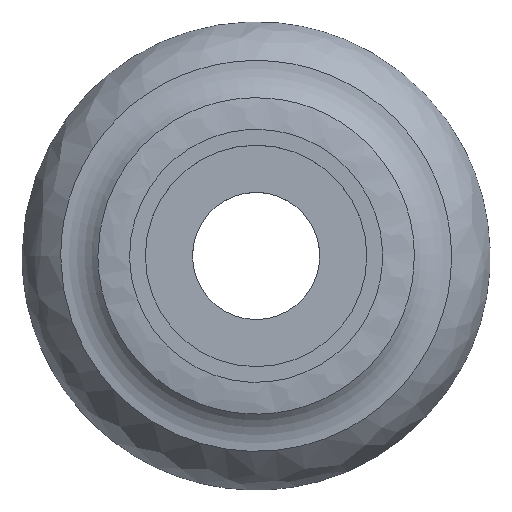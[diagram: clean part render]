
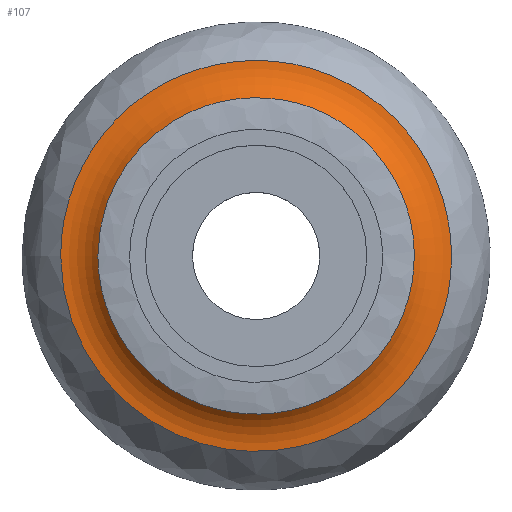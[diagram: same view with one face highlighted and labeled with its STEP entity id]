
A CAD part, top view. The second image highlights one B-rep face of the part: STEP entity #107.
In plain terms, the highlighted toroidal (fillet/blend) face has major radius 12.5 mm and minor radius 3.25 mm.
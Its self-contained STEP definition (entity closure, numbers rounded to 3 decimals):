
#29=FACE_OUTER_BOUND('',#37,.T.);
#37=EDGE_LOOP('',(#80,#81,#82,#83));
#48=CIRCLE('',#130,3.25);
#53=B_SPLINE_CURVE_WITH_KNOTS('',3,(#169,#170,#171,#172,#173,#174,#175,
#176,#177,#178,#179,#180,#181,#182,#183,#184,#185,#186,#187,#188,#189,#190,
#191,#192,#193,#194,#195,#196,#197,#198,#199,#200,#201,#202,#203,#204,#205,
#206,#207,#208,#209,#210,#211),.UNSPECIFIED.,.T.,.F.,(4,3,3,3,3,3,3,3,3,
3,3,3,3,3,4),(-0.507,-0.054,0.4,
0.702,1.306,1.609,2.213,2.515,
3.12,3.422,4.026,4.48,4.933,
5.386,5.84),.UNSPECIFIED.);
#54=B_SPLINE_CURVE_WITH_KNOTS('',3,(#214,#215,#216,#217,#218,#219,#220,
#221,#222,#223,#224,#225,#226,#227,#228,#229,#230,#231,#232,#233,#234,#235,
#236,#237,#238,#239,#240,#241,#242,#243,#244,#245,#246,#247,#248,#249,#250,
#251,#252,#253,#254,#255,#256),.UNSPECIFIED.,.T.,.F.,(4,3,3,3,3,3,3,3,3,
3,3,3,3,3,4),(-7.425,-6.865,-6.305,-5.745,
-5.185,-4.812,-4.065,-3.692,
-2.945,-2.572,-1.825,-1.452,
-0.705,-0.145,0.415),.UNSPECIFIED.);
#59=VERTEX_POINT('',#168);
#60=VERTEX_POINT('',#212);
#67=EDGE_CURVE('',#59,#59,#53,.F.);
#68=EDGE_CURVE('',#59,#60,#48,.T.);
#69=EDGE_CURVE('',#60,#60,#54,.F.);
#80=ORIENTED_EDGE('',*,*,#67,.F.);
#81=ORIENTED_EDGE('',*,*,#68,.T.);
#82=ORIENTED_EDGE('',*,*,#69,.F.);
#83=ORIENTED_EDGE('',*,*,#68,.F.);
#106=TOROIDAL_SURFACE('',#129,12.5,3.25);
#107=ADVANCED_FACE('',(#29),#106,.F.);
#129=AXIS2_PLACEMENT_3D('',#167,#142,#143);
#130=AXIS2_PLACEMENT_3D('',#213,#144,#145);
#142=DIRECTION('center_axis',(0.,0.,1.));
#143=DIRECTION('ref_axis',(1.,0.,0.));
#144=DIRECTION('center_axis',(0.,1.,0.));
#145=DIRECTION('ref_axis',(-1.,0.,0.));
#167=CARTESIAN_POINT('Origin',(130.,0.,7.9));
#168=CARTESIAN_POINT('',(119.929,0.,5.741));
#169=CARTESIAN_POINT('Ctrl Pts',(119.929,0.,
5.741));
#170=CARTESIAN_POINT('Ctrl Pts',(119.929,1.507,5.741));
#171=CARTESIAN_POINT('Ctrl Pts',(120.273,3.014,5.741));
#172=CARTESIAN_POINT('Ctrl Pts',(120.926,4.37,5.741));
#173=CARTESIAN_POINT('Ctrl Pts',(121.58,5.727,5.741));
#174=CARTESIAN_POINT('Ctrl Pts',(122.543,6.932,5.741));
#175=CARTESIAN_POINT('Ctrl Pts',(123.721,7.873,5.741));
#176=CARTESIAN_POINT('Ctrl Pts',(124.506,8.5,5.741));
#177=CARTESIAN_POINT('Ctrl Pts',(125.386,9.01,5.741));
#178=CARTESIAN_POINT('Ctrl Pts',(126.321,9.375,5.741));
#179=CARTESIAN_POINT('Ctrl Pts',(128.191,10.107,5.741));
#180=CARTESIAN_POINT('Ctrl Pts',(130.281,10.264,5.741));
#181=CARTESIAN_POINT('Ctrl Pts',(132.24,9.821,5.741));
#182=CARTESIAN_POINT('Ctrl Pts',(133.22,9.599,5.741));
#183=CARTESIAN_POINT('Ctrl Pts',(134.168,9.228,5.741));
#184=CARTESIAN_POINT('Ctrl Pts',(135.037,8.724,5.741));
#185=CARTESIAN_POINT('Ctrl Pts',(136.775,7.716,5.741));
#186=CARTESIAN_POINT('Ctrl Pts',(138.2,6.18,5.741));
#187=CARTESIAN_POINT('Ctrl Pts',(139.074,4.371,5.741));
#188=CARTESIAN_POINT('Ctrl Pts',(139.511,3.467,5.741));
#189=CARTESIAN_POINT('Ctrl Pts',(139.811,2.494,5.741));
#190=CARTESIAN_POINT('Ctrl Pts',(139.959,1.501,5.741));
#191=CARTESIAN_POINT('Ctrl Pts',(140.255,-0.486,5.741));
#192=CARTESIAN_POINT('Ctrl Pts',(139.945,-2.558,5.741));
#193=CARTESIAN_POINT('Ctrl Pts',(139.077,-4.369,5.741));
#194=CARTESIAN_POINT('Ctrl Pts',(138.643,-5.275,5.741));
#195=CARTESIAN_POINT('Ctrl Pts',(138.069,-6.116,5.741));
#196=CARTESIAN_POINT('Ctrl Pts',(137.385,-6.852,5.741));
#197=CARTESIAN_POINT('Ctrl Pts',(136.015,-8.323,5.741));
#198=CARTESIAN_POINT('Ctrl Pts',(134.199,-9.372,5.741));
#199=CARTESIAN_POINT('Ctrl Pts',(132.242,-9.82,5.741));
#200=CARTESIAN_POINT('Ctrl Pts',(130.775,-10.156,5.741));
#201=CARTESIAN_POINT('Ctrl Pts',(129.228,-10.154,5.741));
#202=CARTESIAN_POINT('Ctrl Pts',(127.759,-9.818,5.741));
#203=CARTESIAN_POINT('Ctrl Pts',(126.29,-9.483,5.741));
#204=CARTESIAN_POINT('Ctrl Pts',(124.899,-8.813,5.741));
#205=CARTESIAN_POINT('Ctrl Pts',(123.721,-7.874,5.741));
#206=CARTESIAN_POINT('Ctrl Pts',(122.544,-6.936,5.741));
#207=CARTESIAN_POINT('Ctrl Pts',(121.58,-5.727,5.741));
#208=CARTESIAN_POINT('Ctrl Pts',(120.926,-4.37,5.741));
#209=CARTESIAN_POINT('Ctrl Pts',(120.272,-3.012,5.741));
#210=CARTESIAN_POINT('Ctrl Pts',(119.929,-1.507,5.741));
#211=CARTESIAN_POINT('Ctrl Pts',(119.929,0.,
5.741));
#212=CARTESIAN_POINT('',(117.559,0.,4.651));
#213=CARTESIAN_POINT('Origin',(117.5,0.,7.9));
#214=CARTESIAN_POINT('Ctrl Pts',(117.559,0.,4.651));
#215=CARTESIAN_POINT('Ctrl Pts',(117.559,-1.861,4.651));
#216=CARTESIAN_POINT('Ctrl Pts',(117.983,-3.722,4.651));
#217=CARTESIAN_POINT('Ctrl Pts',(118.79,-5.398,4.651));
#218=CARTESIAN_POINT('Ctrl Pts',(119.598,-7.075,4.651));
#219=CARTESIAN_POINT('Ctrl Pts',(120.787,-8.567,4.651));
#220=CARTESIAN_POINT('Ctrl Pts',(122.242,-9.727,4.651));
#221=CARTESIAN_POINT('Ctrl Pts',(123.697,-10.887,4.651));
#222=CARTESIAN_POINT('Ctrl Pts',(125.418,-11.716,4.651));
#223=CARTESIAN_POINT('Ctrl Pts',(127.231,-12.13,4.651));
#224=CARTESIAN_POINT('Ctrl Pts',(129.045,-12.544,4.651));
#225=CARTESIAN_POINT('Ctrl Pts',(130.952,-12.543,4.651));
#226=CARTESIAN_POINT('Ctrl Pts',(132.768,-12.13,4.651));
#227=CARTESIAN_POINT('Ctrl Pts',(133.978,-11.855,4.651));
#228=CARTESIAN_POINT('Ctrl Pts',(135.148,-11.397,4.651));
#229=CARTESIAN_POINT('Ctrl Pts',(136.221,-10.775,4.651));
#230=CARTESIAN_POINT('Ctrl Pts',(138.368,-9.532,4.651));
#231=CARTESIAN_POINT('Ctrl Pts',(140.13,-7.635,4.651));
#232=CARTESIAN_POINT('Ctrl Pts',(141.211,-5.401,4.651));
#233=CARTESIAN_POINT('Ctrl Pts',(141.752,-4.283,4.651));
#234=CARTESIAN_POINT('Ctrl Pts',(142.123,-3.082,4.651));
#235=CARTESIAN_POINT('Ctrl Pts',(142.305,-1.854,4.651));
#236=CARTESIAN_POINT('Ctrl Pts',(142.671,0.601,4.651));
#237=CARTESIAN_POINT('Ctrl Pts',(142.285,3.16,4.651));
#238=CARTESIAN_POINT('Ctrl Pts',(141.211,5.397,4.651));
#239=CARTESIAN_POINT('Ctrl Pts',(140.674,6.516,4.651));
#240=CARTESIAN_POINT('Ctrl Pts',(139.966,7.555,4.651));
#241=CARTESIAN_POINT('Ctrl Pts',(139.12,8.463,4.651));
#242=CARTESIAN_POINT('Ctrl Pts',(137.429,10.28,4.651));
#243=CARTESIAN_POINT('Ctrl Pts',(135.189,11.575,4.651));
#244=CARTESIAN_POINT('Ctrl Pts',(132.771,12.132,4.651));
#245=CARTESIAN_POINT('Ctrl Pts',(131.562,12.411,4.651));
#246=CARTESIAN_POINT('Ctrl Pts',(130.308,12.504,4.651));
#247=CARTESIAN_POINT('Ctrl Pts',(129.07,12.41,4.651));
#248=CARTESIAN_POINT('Ctrl Pts',(126.594,12.22,4.651));
#249=CARTESIAN_POINT('Ctrl Pts',(124.183,11.275,4.651));
#250=CARTESIAN_POINT('Ctrl Pts',(122.243,9.73,4.651));
#251=CARTESIAN_POINT('Ctrl Pts',(120.788,8.571,4.651));
#252=CARTESIAN_POINT('Ctrl Pts',(119.598,7.074,4.651));
#253=CARTESIAN_POINT('Ctrl Pts',(118.791,5.397,4.651));
#254=CARTESIAN_POINT('Ctrl Pts',(117.983,3.719,4.651));
#255=CARTESIAN_POINT('Ctrl Pts',(117.559,1.861,4.651));
#256=CARTESIAN_POINT('Ctrl Pts',(117.559,0.,4.651));
